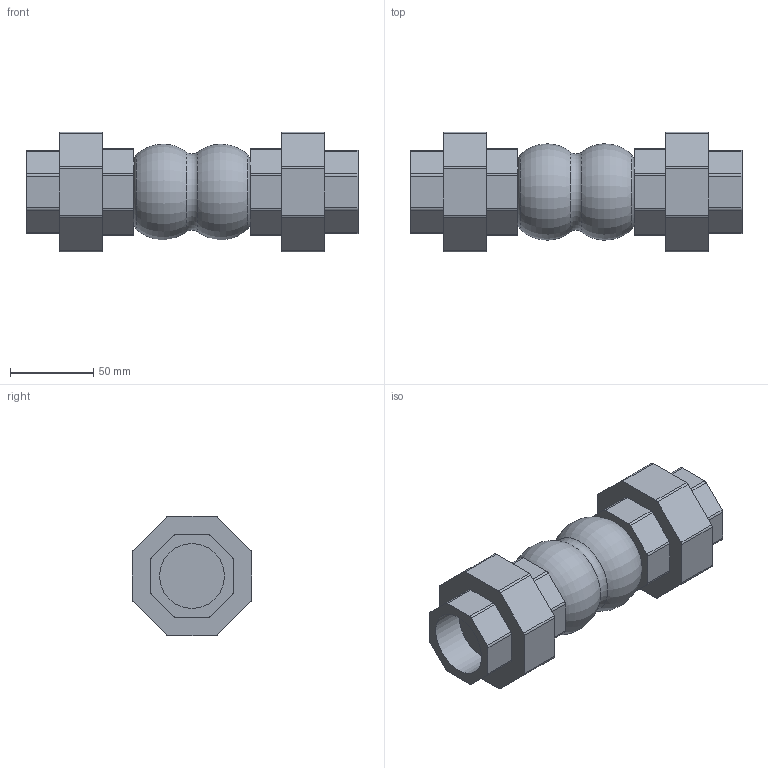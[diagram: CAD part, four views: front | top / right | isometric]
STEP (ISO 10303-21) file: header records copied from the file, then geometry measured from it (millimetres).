
FILE_DESCRIPTION(('STEP AP203'), '1');
FILE_NAME('3D_505-32-16', '', ('UNSPECIFIED'), ('UNSPECIFIED'), 'C3D Converter', 'C3D Toolkit', '');
FILE_SCHEMA(('CONFIG_CONTROL_DESIGN'));
Length unit declared in the file: millimetre
Bounding box: 200 x 72 x 72 mm (x, y, z)
Volume: 500032 mm3; surface area: 58606.1 mm2
Topology: 1 solids, 1 shells, 113 faces, 311 edges, 208 vertices
Faces by surface type: plane 58, cylinder 50, torus 5
Full cylindrical faces by diameter (mm): 39 x2
Entity records: 4537 total; most frequent: DIRECTION 644, CARTESIAN_POINT 626, ORIENTED_EDGE 608, EDGE_CURVE 304, AXIS2_PLACEMENT_3D 226, VERTEX_POINT 208, LINE 192, VECTOR 192
